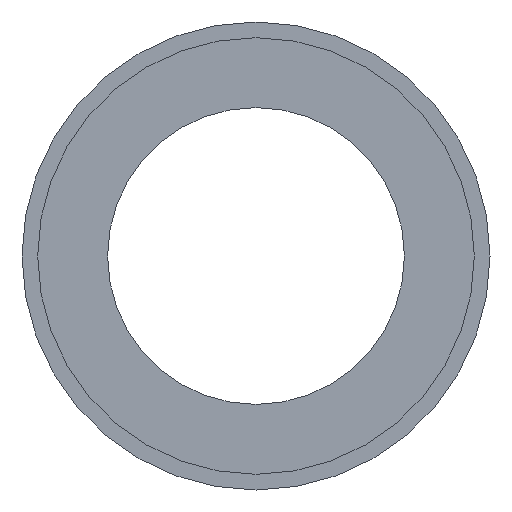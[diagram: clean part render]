
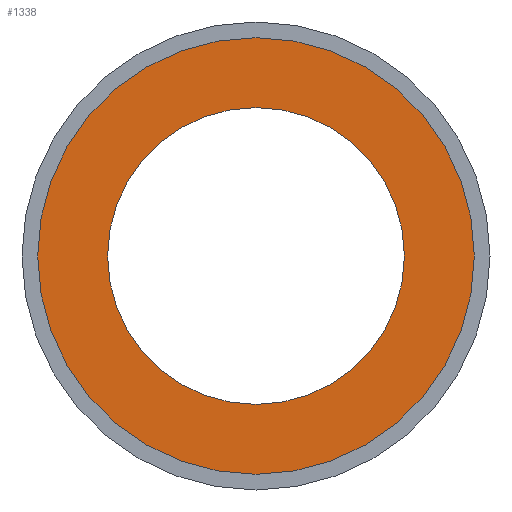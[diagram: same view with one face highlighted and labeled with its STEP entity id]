
A CAD part, front view. The second image highlights one B-rep face of the part: STEP entity #1338.
In plain terms, the highlighted planar face has unit normal (0, -1, 0).
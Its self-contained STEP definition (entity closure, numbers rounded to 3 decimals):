
#24 = CIRCLE ( 'NONE', #2584, 42.5 ) ;
#75 = EDGE_CURVE ( 'NONE', #225, #1729, #1242, .T. ) ;
#118 = DIRECTION ( 'NONE',  ( 0., -1., 0. ) ) ;
#128 = CARTESIAN_POINT ( 'NONE',  ( 0., -20., 0. ) ) ;
#225 = VERTEX_POINT ( 'NONE', #1449 ) ;
#327 = CIRCLE ( 'NONE', #2736, 62.5 ) ;
#343 = ORIENTED_EDGE ( 'NONE', *, *, #1714, .F. ) ;
#450 = VERTEX_POINT ( 'NONE', #2232 ) ;
#454 = DIRECTION ( 'NONE',  ( 0., 0., 1. ) ) ;
#834 = FACE_BOUND ( 'NONE', #1048, .T. ) ;
#1048 = EDGE_LOOP ( 'NONE', ( #1259, #343 ) ) ;
#1107 = AXIS2_PLACEMENT_3D ( 'NONE', #1375, #3655, #454 ) ;
#1242 = CIRCLE ( 'NONE', #2094, 42.5 ) ;
#1259 = ORIENTED_EDGE ( 'NONE', *, *, #75, .F. ) ;
#1338 = ADVANCED_FACE ( 'NONE', ( #834, #2081 ), #3914, .F. ) ;
#1375 = CARTESIAN_POINT ( 'NONE',  ( 0., -20., 42.5 ) ) ;
#1449 = CARTESIAN_POINT ( 'NONE',  ( 0., -20., -42.5 ) ) ;
#1459 = AXIS2_PLACEMENT_3D ( 'NONE', #1653, #3901, #3577 ) ;
#1643 = ORIENTED_EDGE ( 'NONE', *, *, #2664, .T. ) ;
#1653 = CARTESIAN_POINT ( 'NONE',  ( 0., -20., 0. ) ) ;
#1714 = EDGE_CURVE ( 'NONE', #1729, #225, #24, .T. ) ;
#1729 = VERTEX_POINT ( 'NONE', #3811 ) ;
#1907 = EDGE_CURVE ( 'NONE', #450, #4071, #327, .T. ) ;
#1944 = CARTESIAN_POINT ( 'NONE',  ( 0., -20., 0. ) ) ;
#1970 = DIRECTION ( 'NONE',  ( 0., 0., -1. ) ) ;
#2041 = DIRECTION ( 'NONE',  ( 0., 0., -1. ) ) ;
#2081 = FACE_OUTER_BOUND ( 'NONE', #2666, .T. ) ;
#2094 = AXIS2_PLACEMENT_3D ( 'NONE', #2984, #118, #2041 ) ;
#2232 = CARTESIAN_POINT ( 'NONE',  ( 0., -20., -62.5 ) ) ;
#2378 = DIRECTION ( 'NONE',  ( 0., -1., 0. ) ) ;
#2584 = AXIS2_PLACEMENT_3D ( 'NONE', #1944, #2921, #1970 ) ;
#2664 = EDGE_CURVE ( 'NONE', #4071, #450, #3817, .T. ) ;
#2666 = EDGE_LOOP ( 'NONE', ( #2913, #1643 ) ) ;
#2736 = AXIS2_PLACEMENT_3D ( 'NONE', #128, #2378, #2999 ) ;
#2913 = ORIENTED_EDGE ( 'NONE', *, *, #1907, .T. ) ;
#2921 = DIRECTION ( 'NONE',  ( 0., -1., 0. ) ) ;
#2984 = CARTESIAN_POINT ( 'NONE',  ( 0., -20., 0. ) ) ;
#2999 = DIRECTION ( 'NONE',  ( 0., 0., -1. ) ) ;
#3207 = CARTESIAN_POINT ( 'NONE',  ( 0., -20., 62.5 ) ) ;
#3577 = DIRECTION ( 'NONE',  ( 0., 0., -1. ) ) ;
#3655 = DIRECTION ( 'NONE',  ( 0., 1., 0. ) ) ;
#3811 = CARTESIAN_POINT ( 'NONE',  ( 0., -20., 42.5 ) ) ;
#3817 = CIRCLE ( 'NONE', #1459, 62.5 ) ;
#3901 = DIRECTION ( 'NONE',  ( 0., -1., 0. ) ) ;
#3914 = PLANE ( 'NONE',  #1107 ) ;
#4071 = VERTEX_POINT ( 'NONE', #3207 ) ;
